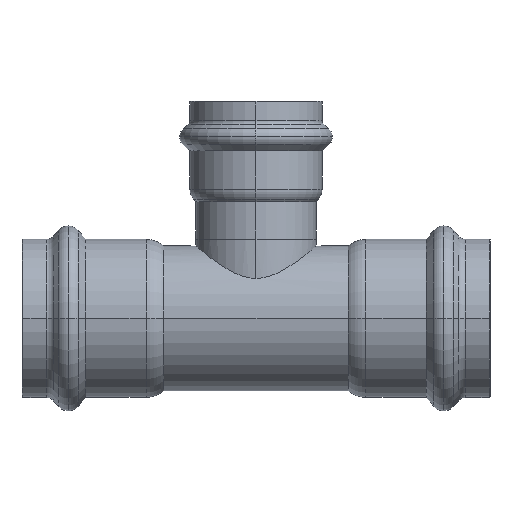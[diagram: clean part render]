
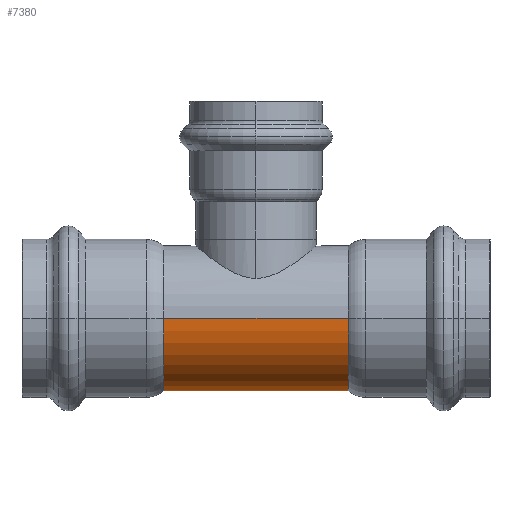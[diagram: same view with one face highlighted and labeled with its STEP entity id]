
A CAD part, left-side view. The second image highlights one B-rep face of the part: STEP entity #7380.
In plain terms, the highlighted cylindrical face has radius 21 mm (diameter 42 mm), a partial arc.
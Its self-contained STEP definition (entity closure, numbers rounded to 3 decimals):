
#2190=CARTESIAN_POINT('',(52.006,36.962,0.));
#2200=VERTEX_POINT('',#2190);
#2290=CARTESIAN_POINT('',(10.006,36.962,0.));
#2300=VERTEX_POINT('',#2290);
#2330=CARTESIAN_POINT('',(31.006,36.962,0.));
#2340=DIRECTION('',(0.,1.,0.));
#2350=DIRECTION('',(-1.,0.,0.));
#2360=AXIS2_PLACEMENT_3D('',#2330,#2340,#2350);
#2370=CIRCLE('',#2360,21.);
#2380=EDGE_CURVE('',#2200,#2300,#2370,.T.);
#2580=CARTESIAN_POINT('',(31.006,10.162,0.));
#2590=DIRECTION('',(0.,1.,0.));
#2600=DIRECTION('',(1.,0.,0.));
#2610=AXIS2_PLACEMENT_3D('',#2580,#2590,#2600);
#2620=CYLINDRICAL_SURFACE('',#2610,21.);
#6400=CARTESIAN_POINT('',(52.006,-16.638,0.));
#6410=VERTEX_POINT('',#6400);
#6460=CARTESIAN_POINT('',(31.006,-16.638,0.));
#6470=DIRECTION('',(0.,1.,0.));
#6480=DIRECTION('',(-1.,0.,0.));
#6490=AXIS2_PLACEMENT_3D('',#6460,#6470,#6480);
#6500=CIRCLE('',#6490,21.);
#6510=CARTESIAN_POINT('',(10.006,-16.638,0.));
#6520=VERTEX_POINT('',#6510);
#6530=EDGE_CURVE('',#6410,#6520,#6500,.T.);
#7220=CARTESIAN_POINT('',(52.006,10.162,0.));
#7230=DIRECTION('',(0.,1.,0.));
#7240=VECTOR('',#7230,1.);
#7250=LINE('',#7220,#7240);
#7260=EDGE_CURVE('',#6410,#2200,#7250,.T.);
#7270=ORIENTED_EDGE('',*,*,#7260,.F.);
#7280=ORIENTED_EDGE('',*,*,#2380,.F.);
#7290=CARTESIAN_POINT('',(10.006,10.162,
0.));
#7300=DIRECTION('',(0.,1.,0.));
#7310=VECTOR('',#7300,1.);
#7320=LINE('',#7290,#7310);
#7330=EDGE_CURVE('',#6520,#2300,#7320,.T.);
#7340=ORIENTED_EDGE('',*,*,#7330,.T.);
#7350=ORIENTED_EDGE('',*,*,#6530,.T.);
#7360=EDGE_LOOP('',(#7350,#7340,#7280,#7270));
#7370=FACE_OUTER_BOUND('',#7360,.T.);
#7380=ADVANCED_FACE('',(#7370),#2620,.T.);
